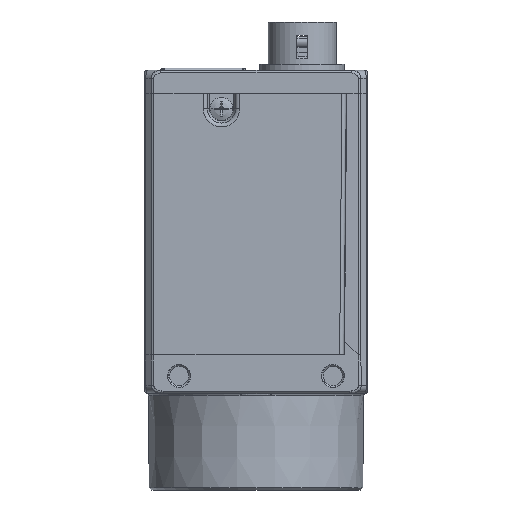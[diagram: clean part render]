
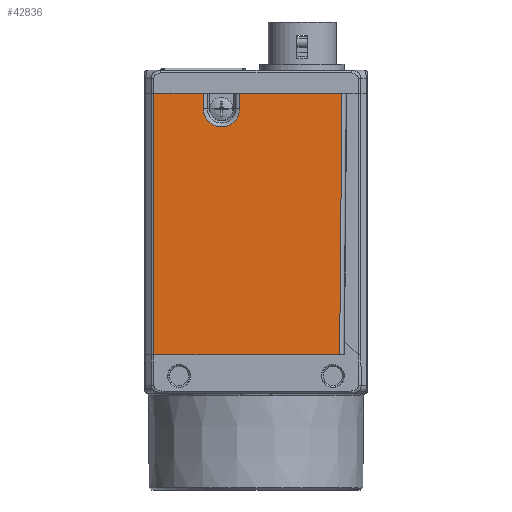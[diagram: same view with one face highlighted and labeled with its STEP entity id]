
A CAD part, left-side view. The second image highlights one B-rep face of the part: STEP entity #42836.
In plain terms, the highlighted planar face has unit normal (-1, 0, 0).
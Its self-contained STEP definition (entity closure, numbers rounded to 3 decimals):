
#11466=DIRECTION('',(0.,1.,0.));
#11467=VECTOR('',#11466,13.318);
#11468=CARTESIAN_POINT('',(-14.5,-11.177,
33.5));
#11469=LINE('',#11468,#11467);
#11470=DIRECTION('',(0.,0.009,-1.));
#11471=VECTOR('',#11470,34.001);
#11472=CARTESIAN_POINT('',(-14.5,-11.177,
33.5));
#11473=LINE('',#11472,#11471);
#11474=DIRECTION('',(0.,0.,1.));
#11475=VECTOR('',#11474,34.);
#11476=CARTESIAN_POINT('',(-14.5,13.293,
-0.5));
#11477=LINE('',#11476,#11475);
#11478=DIRECTION('',(0.,1.,0.));
#11479=VECTOR('',#11478,6.435);
#11480=CARTESIAN_POINT('',(-14.5,6.858,33.5));
#11481=LINE('',#11480,#11479);
#11482=CARTESIAN_POINT('',(-14.5,4.5,31.5));
#11483=DIRECTION('',(-1.,0.,0.));
#11484=DIRECTION('',(0.,1.,0.));
#11485=AXIS2_PLACEMENT_3D('',#11482,#11483,#11484);
#15614=DIRECTION('',(0.,0.,-1.));
#15615=VECTOR('',#15614,2.);
#15616=CARTESIAN_POINT('',(-14.5,2.142,33.5));
#15617=LINE('',#15616,#15615);
#15633=DIRECTION('',(0.,0.,1.));
#15634=VECTOR('',#15633,2.);
#15635=CARTESIAN_POINT('',(-14.5,6.858,31.5));
#15636=LINE('',#15635,#15634);
#16582=CARTESIAN_POINT('',(-14.5,13.293,
-0.5));
#16733=DIRECTION('',(0.,-1.,0.));
#16734=VECTOR('',#16733,24.173);
#16735=CARTESIAN_POINT('',(-14.5,13.293,
-0.5));
#16736=LINE('',#16735,#16734);
#25858=CARTESIAN_POINT('',(-14.5,6.858,31.5));
#25859=CARTESIAN_POINT('',(-14.5,2.142,31.5));
#25860=VERTEX_POINT('',#25858);
#25861=VERTEX_POINT('',#25859);
#26926=VERTEX_POINT('',#16582);
#26927=CARTESIAN_POINT('',(-14.5,-10.88,
-0.5));
#26928=VERTEX_POINT('',#26927);
#27012=CARTESIAN_POINT('',(-14.5,-11.177,
33.5));
#27013=CARTESIAN_POINT('',(-14.5,2.142,33.5));
#27014=VERTEX_POINT('',#27012);
#27015=VERTEX_POINT('',#27013);
#27016=CARTESIAN_POINT('',(-14.5,6.858,33.5));
#27017=CARTESIAN_POINT('',(-14.5,13.293,
33.5));
#27018=VERTEX_POINT('',#27016);
#27019=VERTEX_POINT('',#27017);
#42815=CARTESIAN_POINT('',(-14.5,1.058,16.5));
#42816=DIRECTION('',(1.,0.,0.));
#42817=DIRECTION('',(0.,-1.,0.));
#42818=AXIS2_PLACEMENT_3D('',#42815,#42816,#42817);
#42819=PLANE('',#42818);
#42820=ORIENTED_EDGE('',*,*,#42793,.F.);
#42822=ORIENTED_EDGE('',*,*,#42821,.T.);
#42824=ORIENTED_EDGE('',*,*,#42823,.F.);
#42826=ORIENTED_EDGE('',*,*,#42825,.T.);
#42827=ORIENTED_EDGE('',*,*,#42797,.F.);
#42829=ORIENTED_EDGE('',*,*,#42828,.F.);
#42831=ORIENTED_EDGE('',*,*,#42830,.T.);
#42833=ORIENTED_EDGE('',*,*,#42832,.F.);
#42834=EDGE_LOOP('',(#42820,#42822,#42824,#42826,#42827,#42829,#42831,#42833));
#42835=FACE_OUTER_BOUND('',#42834,.F.);
#42836=ADVANCED_FACE('',(#42835),#42819,.F.);
#11486=CIRCLE('',#11485,2.358);
#42793=EDGE_CURVE('',#27014,#27015,#11469,.T.);
#42797=EDGE_CURVE('',#27018,#27019,#11481,.T.);
#42821=EDGE_CURVE('',#27014,#26928,#11473,.T.);
#42823=EDGE_CURVE('',#26926,#26928,#16736,.T.);
#42825=EDGE_CURVE('',#26926,#27019,#11477,.T.);
#42828=EDGE_CURVE('',#25860,#27018,#15636,.T.);
#42830=EDGE_CURVE('',#25860,#25861,#11486,.T.);
#42832=EDGE_CURVE('',#27015,#25861,#15617,.T.);
